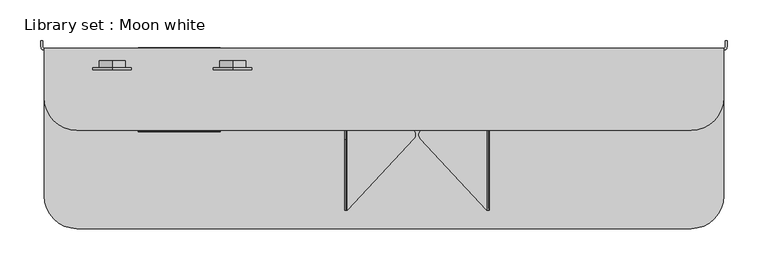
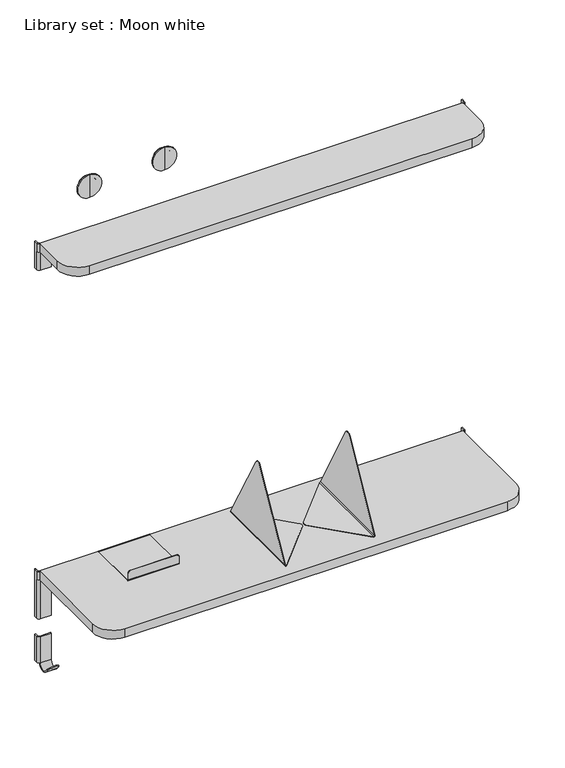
"""IFC4 building model written with IfcOpenShell, lengths in millimetres: proxy geometry, Library set : Moon white."""

from ifc_helpers import new_model, si_unit, point, frame, frame_2d, origin, place, context, project, spatial, polyline, circle_curve, trimmed, segment, composite_curve, outline, extrude, source, transform, mapped, element, save
from ifc_brep_helpers import plane_surface, cylinder_surface, revolved_surface, advanced_brep


def library_set_moon_white_a84b912c(model_context):
    return source(origin(), model_context, "Body", "SolidModel", [
        extrude(outline(composite_curve([segment(polyline([(-415.0, -65.0000014), (-415.0, -5.0000014), (415.0, -5.0000014), (415.0, -65.0000014)]), True, "CONTINUOUS"), segment(trimmed(circle_curve(frame_2d((375.0, -65.0000014)), 40.0), [point((415.0, -65.0000014))], [point((375.0, -105.0000014))], False, "CARTESIAN"), True, "CONTINUOUS"), segment(polyline([(375.0, -105.0000014), (-375.0, -105.0000014)]), True, "CONTINUOUS"), segment(trimmed(circle_curve(frame_2d((-375.0, -65.0000014)), 40.0), [point((-375.0, -105.0000014))], [point((-415.0, -65.0000014))], False, "CARTESIAN"), True, "CONTINUOUS")], self_intersect=False)), frame((0.0, 0.0, 1440.0), z_axis=(0.0, 0.0, 1.0), x_axis=(1.0, 0.0, 0.0)), (0.0, 0.0, 1.0), 18.0),
        extrude(outline(composite_curve([segment(polyline([(-415.0, -185.0000014), (-415.0, -5.0000014), (415.0, -5.0000014), (415.0, -185.0000014)]), True, "CONTINUOUS"), segment(trimmed(circle_curve(frame_2d((375.0, -185.0000014)), 40.0), [point((415.0, -185.0000014))], [point((375.0, -225.0000014))], False, "CARTESIAN"), True, "CONTINUOUS"), segment(polyline([(375.0, -225.0000014), (-375.0, -225.0000014)]), True, "CONTINUOUS"), segment(trimmed(circle_curve(frame_2d((-375.0, -185.0000014)), 40.0), [point((-375.0, -225.0000014))], [point((-415.0, -185.0000014))], False, "CARTESIAN"), True, "CONTINUOUS")], self_intersect=False)), frame((0.0, 0.0, 761.0), z_axis=(0.0, 0.0, 1.0), x_axis=(1.0, 0.0, 0.0)), (0.0, 0.0, 1.0), 18.0),
        extrude(outline(composite_curve([segment(polyline([(-49.0000014, 1408.0), (-49.0000014, 1440.0), (-5.0000014, 1440.0), (-5.0000014, 1403.0), (-44.0000014, 1403.0)]), True, "CONTINUOUS"), segment(trimmed(circle_curve(frame_2d((-44.0000014, 1408.0)), 5.0), [point((-44.0000014, 1403.0))], [point((-49.0000014, 1408.0))], False, "CARTESIAN"), True, "CONTINUOUS")], self_intersect=False)), frame((391.0, 0.0, 0.0), z_axis=(1.0, 0.0, 0.0), x_axis=(0.0, 1.0, 0.0)), (0.0, 0.0, 1.0), 2.0),
        advanced_brep(
        [(44.2382249, -115.311013, 780.0), (125.641753, -202.686997, 780.0), (125.641753, -18.391812, 780.0), (44.2382249, -105.7677961, 780.0), (44.2382249, -115.311013, 779.0), (44.2382249, -105.7677961, 779.0), (125.641753, -18.391812, 779.0), (125.641753, -202.686997, 779.0), (127.641753, -202.686997, 782.0), (128.641753, -202.686997, 782.0), (128.641753, -18.391812, 782.0), (127.641753, -18.391812, 782.0), (127.641753, -116.6617425, 937.1936673), (127.641753, -104.4170666, 937.1936673), (128.641753, -116.6617425, 937.1936673), (128.641753, -104.4170666, 937.1936673)],
        [
            (0, 1),
            (1, 2),
            (2, 3),
            (3, 0, circle_curve(frame((49.3599192, -110.5394045, 780.0), z_axis=(0.0, 0.0, 1.0), x_axis=(-1.0, 0.0, 0.0)), 7.0)),
            (4, 5, circle_curve(frame((49.3599192, -110.5394045, 779.0), z_axis=(0.0, 0.0, -1.0), x_axis=(-1.0, 0.0, 0.0)), 7.0)),
            (5, 6),
            (6, 7),
            (7, 4),
            (0, 4),
            (7, 1),
            (3, 5),
            (2, 6),
            (8, 1, circle_curve(frame((125.641753, -202.686997, 782.0), z_axis=(0.0, 1.0, 0.0), x_axis=(-1.0, 0.0, 0.0)), 2.0)),
            (7, 9, circle_curve(frame((125.641753, -202.686997, 782.0), z_axis=(0.0, -1.0, 0.0), x_axis=(-1.0, 0.0, 0.0)), 3.0)),
            (9, 8),
            (10, 6, circle_curve(frame((125.641753, -18.391812, 782.0), z_axis=(0.0, 1.0, 0.0), x_axis=(-1.0, 0.0, 0.0)), 3.0)),
            (2, 11, circle_curve(frame((125.641753, -18.391812, 782.0), z_axis=(0.0, -1.0, 0.0), x_axis=(-1.0, 0.0, 0.0)), 2.0)),
            (11, 10),
            (10, 9),
            (8, 11),
            (12, 13, circle_curve(frame((127.641753, -110.5394045, 933.8), z_axis=(-1.0, 0.0, 0.0), x_axis=(0.0, 1.0, 0.0)), 7.0)),
            (13, 11),
            (8, 12),
            (14, 9),
            (10, 15),
            (15, 14, circle_curve(frame((128.641753, -110.5394045, 933.8), z_axis=(1.0, 0.0, 0.0), x_axis=(0.0, 1.0, 0.0)), 7.0)),
            (14, 12),
            (13, 15),
        ],
        [
            plane_surface(frame((120.8183962, -197.5097577, 780.0), z_axis=(0.0, 0.0, 1.0), x_axis=(0.6816583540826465, -0.7316706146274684, 0.0))),
            plane_surface(frame((120.8183962, -197.5097577, 779.0), z_axis=(0.0, 0.0, -1.0), x_axis=(-0.6816583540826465, 0.7316706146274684, 0.0))),
            plane_surface(frame((44.2382249, -115.311013, 780.0), z_axis=(-0.7316706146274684, -0.6816583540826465, 0.0), x_axis=(0.0, 0.0, -1.0))),
            cylinder_surface(frame((49.3599192, -110.5394045, 779.0), z_axis=(0.0, 0.0, 1.0), x_axis=(-1.0, 0.0, 0.0)), 7.0),
            plane_surface(frame((125.641753, -18.391812, 780.0), z_axis=(-0.7316706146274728, 0.6816583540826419, 0.0), x_axis=(0.0, 0.0, -1.0))),
            plane_surface(frame((127.641753, -202.686997, 782.0), z_axis=(0.0, -1.0, 0.0), x_axis=(-1.0, 0.0, 0.0))),
            plane_surface(frame((127.641753, -18.391812, 782.0), z_axis=(0.0, 1.0, 0.0), x_axis=(1.0, 0.0, 0.0))),
            cylinder_surface(frame((125.641753, -18.391812, 782.0), z_axis=(0.0, -1.0, 0.0), x_axis=(-1.0, 0.0, 0.0)), 3.0),
            revolved_surface(polyline([(123.641753, -18.391812, 782.0), (123.641753, -202.68699700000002, 782.0)]), (125.641753, -18.391812, 782.0), (0.0, 1.0, 0.0)),
            plane_surface(frame((127.641753, -103.5394045, 933.8), z_axis=(-1.0, 0.0, 0.0), x_axis=(0.0, 0.0, -1.0))),
            plane_surface(frame((128.641753, -103.5394045, 933.8), z_axis=(1.0, 0.0, 0.0), x_axis=(0.0, 0.0, 1.0))),
            plane_surface(frame((127.641753, -202.686997, 782.0), z_axis=(0.0, -0.8746197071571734, 0.4848096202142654), x_axis=(1.0, 0.0, 0.0))),
            plane_surface(frame((127.641753, -104.4170666, 937.1936673), z_axis=(0.0, 0.8746197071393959, 0.4848096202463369), x_axis=(1.0, 0.0, 0.0))),
            cylinder_surface(frame((128.641753, -110.5394045, 933.8), z_axis=(-1.0, 0.0, 0.0), x_axis=(0.0, 1.0, 0.0)), 7.0),
        ],
        [
            (0, [[1, 2, 3, 4]]),
            (1, [[5, 6, 7, 8]]),
            (2, [[-1, 9, -8, 10]]),
            (3, [[-4, 11, -5, -9]]),
            (4, [[-3, 12, -6, -11]]),
            (5, [[13, -10, 14, 15]]),
            (6, [[16, -12, 17, 18]]),
            (7, [[-14, -7, -16, 19]]),
            (8, [[-13, 20, -17, -2]]),
            (9, [[21, 22, -20, 23]]),
            (10, [[24, -19, 25, 26]]),
            (11, [[-23, -15, -24, 27]]),
            (12, [[-22, 28, -25, -18]]),
            (13, [[-21, -27, -26, -28]]),
        ],
    ),
        advanced_brep(
        [(-415.0, -7.0000014, 761.0), (-393.0, -7.0000014, 761.0), (-393.0, -5.0000014, 761.0), (-415.0, -5.0000014, 761.0), (-419.0, -3.0000014, 681.0), (-419.0, 4.0, 681.0), (-417.0, 4.0, 681.0), (-417.0, -3.0000014, 681.0), (-415.0, -5.0000014, 681.0), (-393.0, -5.0000014, 681.0), (-393.0, -7.0000014, 681.0), (-415.0, -7.0000014, 681.0), (-419.0, -3.0000014, 761.0), (-417.0, -3.0000014, 761.0), (-417.0, 4.0, 779.0), (-417.0, -3.0000014, 779.0), (-419.0, 4.0, 779.0), (-419.0, -3.0000014, 779.0), (-415.0, -7.0000014, 779.0), (-415.0, -5.0000014, 779.0)],
        [
            (0, 1),
            (1, 2),
            (2, 3),
            (3, 0),
            (4, 5),
            (5, 6),
            (6, 7),
            (7, 8, circle_curve(frame((-415.0, -3.0000014, 681.0), z_axis=(0.0, 0.0, 1.0), x_axis=(1.0, 0.0, 0.0)), 2.0)),
            (8, 9),
            (9, 10),
            (10, 11),
            (11, 4, circle_curve(frame((-415.0, -3.0000014, 681.0), z_axis=(0.0, 0.0, -1.0), x_axis=(1.0, 0.0, 0.0)), 4.0)),
            (11, 0),
            (0, 12, circle_curve(frame((-415.0, -3.0000014, 761.0), z_axis=(0.0, 0.0, -1.0), x_axis=(1.0, 0.0, 0.0)), 4.0)),
            (12, 4),
            (10, 1),
            (9, 2),
            (8, 3),
            (7, 13),
            (13, 3, circle_curve(frame((-415.0, -3.0000014, 761.0), z_axis=(0.0, 0.0, 1.0), x_axis=(1.0, 0.0, 0.0)), 2.0)),
            (6, 14),
            (14, 15),
            (15, 13),
            (5, 16),
            (16, 14),
            (12, 17),
            (17, 16),
            (17, 18, circle_curve(frame((-415.0, -3.0000014, 779.0), z_axis=(0.0, 0.0, 1.0), x_axis=(1.0, 0.0, 0.0)), 4.0)),
            (18, 19),
            (19, 15, circle_curve(frame((-415.0, -3.0000014, 779.0), z_axis=(0.0, 0.0, -1.0), x_axis=(1.0, 0.0, 0.0)), 2.0)),
            (0, 18),
            (19, 3),
        ],
        [
            plane_surface(frame((-411.0, -3.0000014, 761.0), z_axis=(0.0, 0.0, 1.0), x_axis=(0.0, 1.0, 0.0))),
            plane_surface(frame((-411.0, -3.0000014, 681.0), z_axis=(0.0, 0.0, -1.0), x_axis=(0.0, -1.0, 0.0))),
            cylinder_surface(frame((-415.0, -3.0000014, 681.0), z_axis=(0.0, 0.0, 1.0), x_axis=(1.0, 0.0, 0.0)), 4.0),
            plane_surface(frame((-415.0, -7.0000014, 761.0), z_axis=(0.0, -1.0, 0.0), x_axis=(0.0, 0.0, -1.0))),
            plane_surface(frame((-393.0, -7.0000014, 761.0), z_axis=(1.0, 0.0, 0.0), x_axis=(0.0, 0.0, -1.0))),
            plane_surface(frame((-393.0, -5.0000014, 761.0), z_axis=(0.0, 1.0, 0.0), x_axis=(0.0, 0.0, -1.0))),
            revolved_surface(polyline([(-413.0, -3.0000014, 681.0), (-413.0, -3.0000014, 761.0)]), (-415.0, -3.0000014, 681.0), (0.0, 0.0, -1.0)),
            plane_surface(frame((-417.0, -3.0000014, 761.0), z_axis=(1.0, 0.0, 0.0), x_axis=(0.0, 0.0, -1.0))),
            plane_surface(frame((-417.0, 4.0, 761.0), z_axis=(0.0, 1.0, 0.0), x_axis=(0.0, 0.0, -1.0))),
            plane_surface(frame((-419.0, 4.0, 761.0), z_axis=(-1.0, 0.0, 0.0), x_axis=(0.0, 0.0, -1.0))),
            plane_surface(frame((-411.0, -3.0000014, 779.0), z_axis=(0.0, 0.0, 1.0), x_axis=(0.0, 1.0, 0.0))),
            cylinder_surface(frame((-415.0, -3.0000014, 761.0), z_axis=(0.0, 0.0, 1.0), x_axis=(1.0, 0.0, 0.0)), 4.0),
            revolved_surface(polyline([(-413.0, -3.0000014, 761.0), (-413.0, -3.0000014, 779.0)]), (-415.0, -3.0000014, 761.0), (0.0, 0.0, -1.0)),
            plane_surface(frame((-415.0, -7.0000014, 779.0), z_axis=(1.0, 0.0, 0.0), x_axis=(0.0, 0.0, -1.0))),
        ],
        [
            (0, [[1, 2, 3, 4]]),
            (1, [[5, 6, 7, 8, 9, 10, 11, 12]]),
            (2, [[-12, 13, 14, 15]]),
            (3, [[-1, -13, -11, 16]]),
            (4, [[-2, -16, -10, 17]]),
            (5, [[-3, -17, -9, 18]]),
            (6, [[-8, 19, 20, -18]]),
            (7, [[-7, 21, 22, 23, -19]]),
            (8, [[-21, -6, 24, 25]]),
            (9, [[-24, -5, -15, 26, 27]]),
            (10, [[28, 29, 30, -22, -25, -27]]),
            (11, [[-28, -26, -14, 31]]),
            (12, [[-30, 32, -20, -23]]),
            (13, [[-29, -31, -4, -32]]),
        ],
    ),
        advanced_brep(
        [(415.0, -5.0000014, 761.0), (393.0, -5.0000014, 761.0), (393.0, -7.0000014, 761.0), (415.0, -7.0000014, 761.0), (419.0, -3.0000014, 681.0), (415.0, -7.0000014, 681.0), (393.0, -7.0000014, 681.0), (393.0, -5.0000014, 681.0), (415.0, -5.0000014, 681.0), (417.0, -3.0000014, 681.0), (417.0, 4.0, 681.0), (419.0, 4.0, 681.0), (419.0, 4.0, 779.0), (419.0, -3.0000014, 779.0), (419.0, -3.0000014, 761.0), (417.0, 4.0, 779.0), (417.0, -3.0000014, 761.0), (417.0, -3.0000014, 779.0), (415.0, -5.0000014, 779.0), (415.0, -7.0000014, 779.0)],
        [
            (0, 1),
            (1, 2),
            (2, 3),
            (3, 0),
            (4, 5, circle_curve(frame((415.0, -3.0000014, 681.0), z_axis=(0.0, 0.0, -1.0), x_axis=(1.0, 0.0, 0.0)), 4.0)),
            (5, 6),
            (6, 7),
            (7, 8),
            (8, 9, circle_curve(frame((415.0, -3.0000014, 681.0), z_axis=(0.0, 0.0, 1.0), x_axis=(1.0, 0.0, 0.0)), 2.0)),
            (9, 10),
            (10, 11),
            (11, 4),
            (11, 12),
            (12, 13),
            (13, 14),
            (14, 4),
            (10, 15),
            (15, 12),
            (9, 16),
            (16, 17),
            (17, 15),
            (8, 0),
            (0, 16, circle_curve(frame((415.0, -3.0000014, 761.0), z_axis=(0.0, 0.0, 1.0), x_axis=(1.0, 0.0, 0.0)), 2.0)),
            (7, 1),
            (6, 2),
            (5, 3),
            (14, 3, circle_curve(frame((415.0, -3.0000014, 761.0), z_axis=(0.0, 0.0, -1.0), x_axis=(1.0, 0.0, 0.0)), 4.0)),
            (17, 18, circle_curve(frame((415.0, -3.0000014, 779.0), z_axis=(0.0, 0.0, -1.0), x_axis=(1.0, 0.0, 0.0)), 2.0)),
            (18, 19),
            (19, 13, circle_curve(frame((415.0, -3.0000014, 779.0), z_axis=(0.0, 0.0, 1.0), x_axis=(1.0, 0.0, 0.0)), 4.0)),
            (0, 18),
            (19, 3),
        ],
        [
            plane_surface(frame((-411.0, -3.0000014, 761.0), z_axis=(0.0, 0.0, 1.0), x_axis=(0.0, 1.0, 0.0))),
            plane_surface(frame((-411.0, -3.0000014, 681.0), z_axis=(0.0, 0.0, -1.0), x_axis=(0.0, -1.0, 0.0))),
            plane_surface(frame((419.0, -3.0000014, 761.0), z_axis=(1.0, 0.0, 0.0), x_axis=(0.0, 0.0, -1.0))),
            plane_surface(frame((419.0, 4.0, 761.0), z_axis=(0.0, 1.0, 0.0), x_axis=(0.0, 0.0, -1.0))),
            plane_surface(frame((417.0, 4.0, 761.0), z_axis=(-1.0, 0.0, 0.0), x_axis=(0.0, 0.0, -1.0))),
            revolved_surface(polyline([(417.0, -3.0000014, 681.0), (417.0, -3.0000014, 761.0)]), (415.0, -3.0000014, 0.0), (0.0, 0.0, -1.0)),
            plane_surface(frame((415.0, -5.0000014, 761.0), z_axis=(0.0, 1.0, 0.0), x_axis=(0.0, 0.0, -1.0))),
            plane_surface(frame((393.0, -5.0000014, 761.0), z_axis=(-1.0, 0.0, 0.0), x_axis=(0.0, 0.0, -1.0))),
            plane_surface(frame((393.0, -7.0000014, 761.0), z_axis=(0.0, -1.0, 0.0), x_axis=(0.0, 0.0, -1.0))),
            cylinder_surface(frame((415.0, -3.0000014, 0.0), z_axis=(0.0, 0.0, 1.0), x_axis=(1.0, 0.0, 0.0)), 4.0),
            plane_surface(frame((-411.0, -3.0000014, 779.0), z_axis=(0.0, 0.0, 1.0), x_axis=(0.0, 1.0, 0.0))),
            revolved_surface(polyline([(417.0, -3.0000014, 761.0), (417.0, -3.0000014, 779.0)]), (415.0, -3.0000014, 45.0), (0.0, 0.0, -1.0)),
            cylinder_surface(frame((415.0, -3.0000014, 45.0), z_axis=(0.0, 0.0, 1.0), x_axis=(1.0, 0.0, 0.0)), 4.0),
            plane_surface(frame((415.0, -5.0000014, 779.0), z_axis=(-1.0, 0.0, 0.0), x_axis=(0.0, 0.0, -1.0))),
        ],
        [
            (0, [[1, 2, 3, 4]]),
            (1, [[5, 6, 7, 8, 9, 10, 11, 12]]),
            (2, [[-12, 13, 14, 15, 16]]),
            (3, [[-13, -11, 17, 18]]),
            (4, [[-17, -10, 19, 20, 21]]),
            (5, [[-9, 22, 23, -19]]),
            (6, [[-1, -22, -8, 24]]),
            (7, [[-2, -24, -7, 25]]),
            (8, [[-3, -25, -6, 26]]),
            (9, [[-5, -16, 27, -26]]),
            (10, [[-14, -18, -21, 28, 29, 30]]),
            (11, [[-28, -20, -23, 31]]),
            (12, [[-30, 32, -27, -15]]),
            (13, [[-29, -31, -4, -32]]),
        ],
    ),
        advanced_brep(
        [(-415.0, -7.0000014, 1440.0), (-393.0, -7.0000014, 1440.0), (-393.0, -5.0000014, 1440.0), (-415.0, -5.0000014, 1440.0), (-419.0, -3.0000014, 1403.0), (-419.0, 4.0, 1403.0), (-417.0, 4.0, 1403.0), (-417.0, -3.0000014, 1403.0), (-415.0, -5.0000014, 1403.0), (-393.0, -5.0000014, 1403.0), (-393.0, -7.0000014, 1403.0), (-415.0, -7.0000014, 1403.0), (-419.0, -3.0000014, 1440.0), (-417.0, -3.0000014, 1440.0), (-417.0, 4.0, 1458.0), (-417.0, -3.0000014, 1458.0), (-419.0, 4.0, 1458.0), (-419.0, -3.0000014, 1458.0), (-415.0, -7.0000014, 1458.0), (-415.0, -5.0000014, 1458.0)],
        [
            (0, 1),
            (1, 2),
            (2, 3),
            (3, 0),
            (4, 5),
            (5, 6),
            (6, 7),
            (7, 8, circle_curve(frame((-415.0, -3.0000014, 1403.0), z_axis=(0.0, 0.0, 1.0), x_axis=(1.0, 0.0, 0.0)), 2.0)),
            (8, 9),
            (9, 10),
            (10, 11),
            (11, 4, circle_curve(frame((-415.0, -3.0000014, 1403.0), z_axis=(0.0, 0.0, -1.0), x_axis=(1.0, 0.0, 0.0)), 4.0)),
            (11, 0),
            (0, 12, circle_curve(frame((-415.0, -3.0000014, 1440.0), z_axis=(0.0, 0.0, -1.0), x_axis=(1.0, 0.0, 0.0)), 4.0)),
            (12, 4),
            (10, 1),
            (9, 2),
            (8, 3),
            (7, 13),
            (13, 3, circle_curve(frame((-415.0, -3.0000014, 1440.0), z_axis=(0.0, 0.0, 1.0), x_axis=(1.0, 0.0, 0.0)), 2.0)),
            (6, 14),
            (14, 15),
            (15, 13),
            (5, 16),
            (16, 14),
            (12, 17),
            (17, 16),
            (17, 18, circle_curve(frame((-415.0, -3.0000014, 1458.0), z_axis=(0.0, 0.0, 1.0), x_axis=(1.0, 0.0, 0.0)), 4.0)),
            (18, 19),
            (19, 15, circle_curve(frame((-415.0, -3.0000014, 1458.0), z_axis=(0.0, 0.0, -1.0), x_axis=(1.0, 0.0, 0.0)), 2.0)),
            (0, 18),
            (19, 3),
        ],
        [
            plane_surface(frame((-411.0, -3.0000014, 1440.0), z_axis=(0.0, 0.0, 1.0), x_axis=(0.0, 1.0, 0.0))),
            plane_surface(frame((-411.0, -3.0000014, 1403.0), z_axis=(0.0, 0.0, -1.0), x_axis=(0.0, -1.0, 0.0))),
            cylinder_surface(frame((-415.0, -3.0000014, 1403.0), z_axis=(0.0, 0.0, 1.0), x_axis=(1.0, 0.0, 0.0)), 4.0),
            plane_surface(frame((-415.0, -7.0000014, 1440.0), z_axis=(0.0, -1.0, 0.0), x_axis=(0.0, 0.0, -1.0))),
            plane_surface(frame((-393.0, -7.0000014, 1440.0), z_axis=(1.0, 0.0, 0.0), x_axis=(0.0, 0.0, -1.0))),
            plane_surface(frame((-393.0, -5.0000014, 1440.0), z_axis=(0.0, 1.0, 0.0), x_axis=(0.0, 0.0, -1.0))),
            revolved_surface(polyline([(-413.0, -3.0000014, 1403.0), (-413.0, -3.0000014, 1440.0)]), (-415.0, -3.0000014, 1403.0), (0.0, 0.0, -1.0)),
            plane_surface(frame((-417.0, -3.0000014, 1440.0), z_axis=(1.0, 0.0, 0.0), x_axis=(0.0, 0.0, -1.0))),
            plane_surface(frame((-417.0, 4.0, 1440.0), z_axis=(0.0, 1.0, 0.0), x_axis=(0.0, 0.0, -1.0))),
            plane_surface(frame((-419.0, 4.0, 1440.0), z_axis=(-1.0, 0.0, 0.0), x_axis=(0.0, 0.0, -1.0))),
            plane_surface(frame((-411.0, -3.0000014, 1458.0), z_axis=(0.0, 0.0, 1.0), x_axis=(0.0, 1.0, 0.0))),
            cylinder_surface(frame((-415.0, -3.0000014, 1440.0), z_axis=(0.0, 0.0, 1.0), x_axis=(1.0, 0.0, 0.0)), 4.0),
            revolved_surface(polyline([(-413.0, -3.0000014, 1440.0), (-413.0, -3.0000014, 1458.0)]), (-415.0, -3.0000014, 1440.0), (0.0, 0.0, -1.0)),
            plane_surface(frame((-415.0, -7.0000014, 1458.0), z_axis=(1.0, 0.0, 0.0), x_axis=(0.0, 0.0, -1.0))),
        ],
        [
            (0, [[1, 2, 3, 4]]),
            (1, [[5, 6, 7, 8, 9, 10, 11, 12]]),
            (2, [[-12, 13, 14, 15]]),
            (3, [[-1, -13, -11, 16]]),
            (4, [[-2, -16, -10, 17]]),
            (5, [[-3, -17, -9, 18]]),
            (6, [[-8, 19, 20, -18]]),
            (7, [[-7, 21, 22, 23, -19]]),
            (8, [[-21, -6, 24, 25]]),
            (9, [[-24, -5, -15, 26, 27]]),
            (10, [[28, 29, 30, -22, -25, -27]]),
            (11, [[-28, -26, -14, 31]]),
            (12, [[-30, 32, -20, -23]]),
            (13, [[-29, -31, -4, -32]]),
        ],
    ),
        advanced_brep(
        [(415.0, -5.0000014, 1440.0), (392.6469872, -5.0000014, 1440.0), (392.6469872, -7.0000014, 1440.0), (415.0, -7.0000014, 1440.0), (419.0, -3.0000014, 1403.0), (415.0, -7.0000014, 1403.0), (392.6469872, -7.0000014, 1403.0), (392.6469872, -5.0000014, 1403.0), (415.0, -5.0000014, 1403.0), (417.0, -3.0000014, 1403.0), (417.0, 4.0, 1403.0), (419.0, 4.0, 1403.0), (419.0, 4.0, 1458.0), (419.0, -3.0000014, 1458.0), (419.0, -3.0000014, 1440.0), (417.0, 4.0, 1458.0), (417.0, -3.0000014, 1440.0), (417.0, -3.0000014, 1458.0), (415.0, -5.0000014, 1458.0), (415.0, -7.0000014, 1458.0)],
        [
            (0, 1),
            (1, 2),
            (2, 3),
            (3, 0),
            (4, 5, circle_curve(frame((415.0, -3.0000014, 1403.0), z_axis=(0.0, 0.0, -1.0), x_axis=(1.0, 0.0, 0.0)), 4.0)),
            (5, 6),
            (6, 7),
            (7, 8),
            (8, 9, circle_curve(frame((415.0, -3.0000014, 1403.0), z_axis=(0.0, 0.0, 1.0), x_axis=(1.0, 0.0, 0.0)), 2.0)),
            (9, 10),
            (10, 11),
            (11, 4),
            (11, 12),
            (12, 13),
            (13, 14),
            (14, 4),
            (10, 15),
            (15, 12),
            (9, 16),
            (16, 17),
            (17, 15),
            (8, 0),
            (0, 16, circle_curve(frame((415.0, -3.0000014, 1440.0), z_axis=(0.0, 0.0, 1.0), x_axis=(1.0, 0.0, 0.0)), 2.0)),
            (7, 1),
            (6, 2),
            (5, 3),
            (14, 3, circle_curve(frame((415.0, -3.0000014, 1440.0), z_axis=(0.0, 0.0, -1.0), x_axis=(1.0, 0.0, 0.0)), 4.0)),
            (17, 18, circle_curve(frame((415.0, -3.0000014, 1458.0), z_axis=(0.0, 0.0, -1.0), x_axis=(1.0, 0.0, 0.0)), 2.0)),
            (18, 19),
            (19, 13, circle_curve(frame((415.0, -3.0000014, 1458.0), z_axis=(0.0, 0.0, 1.0), x_axis=(1.0, 0.0, 0.0)), 4.0)),
            (0, 18),
            (19, 3),
        ],
        [
            plane_surface(frame((-411.0, -3.0000014, 1440.0), z_axis=(0.0, 0.0, 1.0), x_axis=(0.0, 1.0, 0.0))),
            plane_surface(frame((-411.0, -3.0000014, 1403.0), z_axis=(0.0, 0.0, -1.0), x_axis=(0.0, -1.0, 0.0))),
            plane_surface(frame((419.0, -3.0000014, 1440.0), z_axis=(1.0, 0.0, 0.0), x_axis=(0.0, 0.0, -1.0))),
            plane_surface(frame((419.0, 4.0, 1440.0), z_axis=(0.0, 1.0, 0.0), x_axis=(0.0, 0.0, -1.0))),
            plane_surface(frame((417.0, 4.0, 1440.0), z_axis=(-1.0, 0.0, 0.0), x_axis=(0.0, 0.0, -1.0))),
            revolved_surface(polyline([(417.0, -3.0000014, 1403.0), (417.0, -3.0000014, 1440.0)]), (415.0, -3.0000014, 340.0), (0.0, 0.0, -1.0)),
            plane_surface(frame((415.0, -5.0000014, 1440.0), z_axis=(0.0, 1.0, 0.0), x_axis=(0.0, 0.0, -1.0))),
            plane_surface(frame((392.6469872, -5.0000014, 1440.0), z_axis=(-1.0, 0.0, 0.0), x_axis=(0.0, 0.0, -1.0))),
            plane_surface(frame((392.6469872, -7.0000014, 1440.0), z_axis=(0.0, -1.0, 0.0), x_axis=(0.0, 0.0, -1.0))),
            cylinder_surface(frame((415.0, -3.0000014, 340.0), z_axis=(0.0, 0.0, 1.0), x_axis=(1.0, 0.0, 0.0)), 4.0),
            plane_surface(frame((-411.0, -3.0000014, 1458.0), z_axis=(0.0, 0.0, 1.0), x_axis=(0.0, 1.0, 0.0))),
            revolved_surface(polyline([(417.0, -3.0000014, 1440.0), (417.0, -3.0000014, 1458.0)]), (415.0, -3.0000014, 355.0), (0.0, 0.0, -1.0)),
            cylinder_surface(frame((415.0, -3.0000014, 355.0), z_axis=(0.0, 0.0, 1.0), x_axis=(1.0, 0.0, 0.0)), 4.0),
            plane_surface(frame((415.0, -5.0000014, 1458.0), z_axis=(-1.0, 0.0, 0.0), x_axis=(0.0, 0.0, -1.0))),
        ],
        [
            (0, [[1, 2, 3, 4]]),
            (1, [[5, 6, 7, 8, 9, 10, 11, 12]]),
            (2, [[-12, 13, 14, 15, 16]]),
            (3, [[-13, -11, 17, 18]]),
            (4, [[-17, -10, 19, 20, 21]]),
            (5, [[-9, 22, 23, -19]]),
            (6, [[-1, -22, -8, 24]]),
            (7, [[-2, -24, -7, 25]]),
            (8, [[-3, -25, -6, 26]]),
            (9, [[-5, -16, 27, -26]]),
            (10, [[-14, -18, -21, 28, 29, 30]]),
            (11, [[-28, -20, -23, 31]]),
            (12, [[-30, 32, -27, -15]]),
            (13, [[-29, -31, -4, -32]]),
        ],
    ),
        advanced_brep(
        [(36.4816135, -115.311013, 780.0), (36.4816135, -105.7677961, 780.0), (-44.9219146, -18.391812, 780.0), (-44.9219146, -202.686997, 780.0), (36.4816135, -115.311013, 779.0), (-44.9219146, -202.686997, 779.0), (-44.9219146, -18.391812, 779.0), (36.4816135, -105.7677961, 779.0), (-47.9219146, -202.686997, 782.0), (-46.9219146, -202.686997, 782.0), (-46.9219146, -18.391812, 782.0), (-47.9219146, -18.391812, 782.0), (-46.9219146, -116.6617425, 937.1936673), (-46.9219146, -104.4170666, 937.1936673), (-47.9219146, -116.6617425, 937.1936673), (-47.9219146, -104.4170666, 937.1936673)],
        [
            (0, 1, circle_curve(frame((31.3599192, -110.5394045, 780.0), z_axis=(0.0, 0.0, 1.0), x_axis=(1.0, 0.0, 0.0)), 7.0)),
            (1, 2),
            (2, 3),
            (3, 0),
            (4, 5),
            (5, 6),
            (6, 7),
            (7, 4, circle_curve(frame((31.3599192, -110.5394045, 779.0), z_axis=(0.0, 0.0, -1.0), x_axis=(1.0, 0.0, 0.0)), 7.0)),
            (3, 5),
            (4, 0),
            (7, 1),
            (6, 2),
            (8, 5, circle_curve(frame((-44.9219146, -202.686997, 782.0), z_axis=(0.0, -1.0, 0.0), x_axis=(1.0, 0.0, 0.0)), 3.0)),
            (3, 9, circle_curve(frame((-44.9219146, -202.686997, 782.0), z_axis=(0.0, 1.0, 0.0), x_axis=(1.0, 0.0, 0.0)), 2.0)),
            (9, 8),
            (10, 2, circle_curve(frame((-44.9219146, -18.391812, 782.0), z_axis=(0.0, -1.0, 0.0), x_axis=(1.0, 0.0, 0.0)), 2.0)),
            (6, 11, circle_curve(frame((-44.9219146, -18.391812, 782.0), z_axis=(0.0, 1.0, 0.0), x_axis=(1.0, 0.0, 0.0)), 3.0)),
            (11, 10),
            (8, 11),
            (10, 9),
            (12, 9),
            (10, 13),
            (13, 12, circle_curve(frame((-46.9219146, -110.5394045, 933.8), z_axis=(1.0, 0.0, 0.0), x_axis=(0.0, 1.0, 0.0)), 7.0)),
            (14, 15, circle_curve(frame((-47.9219146, -110.5394045, 933.8), z_axis=(-1.0, 0.0, 0.0), x_axis=(0.0, 1.0, 0.0)), 7.0)),
            (15, 11),
            (8, 14),
            (12, 14),
            (15, 13),
        ],
        [
            plane_surface(frame((38.3599192, -110.5394045, 780.0), z_axis=(0.0, 0.0, 1.0), x_axis=(0.0, 1.0, 0.0))),
            plane_surface(frame((38.3599192, -110.5394045, 779.0), z_axis=(0.0, 0.0, -1.0), x_axis=(0.0, -1.0, 0.0))),
            plane_surface(frame((-44.9219146, -202.686997, 780.0), z_axis=(0.7316706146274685, -0.6816583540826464, 0.0), x_axis=(0.0, 0.0, -1.0))),
            cylinder_surface(frame((31.3599192, -110.5394045, 779.0), z_axis=(0.0, 0.0, 1.0), x_axis=(1.0, 0.0, 0.0)), 7.0),
            plane_surface(frame((36.4816135, -105.7677961, 780.0), z_axis=(0.7316706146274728, 0.6816583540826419, 0.0), x_axis=(0.0, 0.0, -1.0))),
            plane_surface(frame((-41.9219146, -202.686997, 782.0), z_axis=(0.0, -1.0, 0.0), x_axis=(0.0, 0.0, 1.0))),
            plane_surface(frame((-41.9219146, -18.391812, 782.0), z_axis=(0.0, 1.0, 0.0), x_axis=(0.0, 0.0, -1.0))),
            cylinder_surface(frame((-44.9219146, -18.391812, 782.0), z_axis=(0.0, -1.0, 0.0), x_axis=(1.0, 0.0, 0.0)), 3.0),
            revolved_surface(polyline([(-42.9219146, -18.391812, 782.0), (-42.9219146, -202.68699700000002, 782.0)]), (-44.9219146, -18.391812, 782.0), (0.0, 1.0, 0.0)),
            plane_surface(frame((-46.9219146, -200.4270861, 786.0769872), z_axis=(1.0, 0.0, 0.0), x_axis=(0.0, -0.4848096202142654, -0.8746197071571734))),
            plane_surface(frame((-47.9219146, -200.4270861, 786.0769872), z_axis=(-1.0, 0.0, 0.0), x_axis=(0.0, 0.4848096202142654, 0.8746197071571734))),
            plane_surface(frame((-46.9219146, -116.6617425, 937.1936673), z_axis=(0.0, -0.8746197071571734, 0.4848096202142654), x_axis=(-1.0, 0.0, 0.0))),
            plane_surface(frame((-46.9219146, -18.391812, 782.0), z_axis=(0.0, 0.874619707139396, 0.48480962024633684), x_axis=(-1.0, 0.0, 0.0))),
            cylinder_surface(frame((-47.9219146, -110.5394045, 933.8), z_axis=(1.0, 0.0, 0.0), x_axis=(0.0, 1.0, 0.0)), 7.0),
        ],
        [
            (0, [[1, 2, 3, 4]]),
            (1, [[5, 6, 7, 8]]),
            (2, [[-4, 9, -5, 10]]),
            (3, [[-1, -10, -8, 11]]),
            (4, [[-2, -11, -7, 12]]),
            (5, [[13, -9, 14, 15]]),
            (6, [[16, -12, 17, 18]]),
            (7, [[-13, 19, -17, -6]]),
            (8, [[-14, -3, -16, 20]]),
            (9, [[21, -20, 22, 23]]),
            (10, [[24, 25, -19, 26]]),
            (11, [[-21, 27, -26, -15]]),
            (12, [[-22, -18, -25, 28]]),
            (13, [[-23, -28, -24, -27]]),
        ],
    ),
        advanced_brep(
        [(-200.0, -107.0, 782.0), (-200.0, -104.0, 779.0), (-200.0, -6.5000014, 779.0), (-200.0, -5.0000014, 777.5), (-200.0, -5.0000014, 762.0), (-200.0, -4.0000014, 762.0), (-200.0, -4.0000014, 777.0), (-200.0, -7.0000014, 780.0), (-200.0, -104.5, 780.0), (-200.0, -106.0, 781.5), (-200.0, -106.0, 795.0), (-200.0, -107.0, 795.0), (-300.0, -106.0, 781.5), (-300.0, -104.5, 780.0), (-300.0, -7.0000014, 780.0), (-300.0, -4.0000014, 777.0), (-300.0, -4.0000014, 762.0), (-300.0, -5.0000014, 762.0), (-300.0, -5.0000014, 777.5), (-300.0, -6.5000014, 779.0), (-300.0, -104.0, 779.0), (-300.0, -107.0, 782.0), (-300.0, -107.0, 795.0), (-300.0, -106.0, 795.0), (-205.0, -107.0, 800.0), (-295.0, -107.0, 800.0), (-295.0, -106.0, 800.0), (-205.0, -106.0, 800.0)],
        [
            (0, 1, circle_curve(frame((-200.0, -104.0, 782.0), z_axis=(1.0, 0.0, 0.0), x_axis=(0.0, 1.0, 0.0)), 3.0)),
            (1, 2),
            (2, 3, circle_curve(frame((-200.0, -6.5000014, 777.5), z_axis=(-1.0, 0.0, 0.0), x_axis=(0.0, 1.0, 0.0)), 1.5)),
            (3, 4),
            (4, 5),
            (5, 6),
            (6, 7, circle_curve(frame((-200.0, -7.0000014, 777.0), z_axis=(1.0, 0.0, 0.0), x_axis=(0.0, 1.0, 0.0)), 3.0)),
            (7, 8),
            (8, 9, circle_curve(frame((-200.0, -104.5, 781.5), z_axis=(-1.0, 0.0, 0.0), x_axis=(0.0, 1.0, 0.0)), 1.5)),
            (9, 10),
            (10, 11),
            (11, 0),
            (12, 13, circle_curve(frame((-300.0, -104.5, 781.5), z_axis=(1.0, 0.0, 0.0), x_axis=(0.0, 1.0, 0.0)), 1.5)),
            (13, 14),
            (14, 15, circle_curve(frame((-300.0, -7.0000014, 777.0), z_axis=(-1.0, 0.0, 0.0), x_axis=(0.0, 1.0, 0.0)), 3.0)),
            (15, 16),
            (16, 17),
            (17, 18),
            (18, 19, circle_curve(frame((-300.0, -6.5000014, 777.5), z_axis=(1.0, 0.0, 0.0), x_axis=(0.0, 1.0, 0.0)), 1.5)),
            (19, 20),
            (20, 21, circle_curve(frame((-300.0, -104.0, 782.0), z_axis=(-1.0, 0.0, 0.0), x_axis=(0.0, 1.0, 0.0)), 3.0)),
            (21, 22),
            (22, 23),
            (23, 12),
            (21, 0),
            (11, 24, circle_curve(frame((-205.0, -107.0, 795.0), z_axis=(0.0, -1.0, 0.0), x_axis=(1.0, 0.0, 0.0)), 5.0)),
            (24, 25),
            (25, 22, circle_curve(frame((-295.0, -107.0, 795.0), z_axis=(0.0, -1.0, 0.0), x_axis=(1.0, 0.0, 0.0)), 5.0)),
            (20, 1),
            (19, 2),
            (18, 3),
            (17, 4),
            (16, 5),
            (15, 6),
            (14, 7),
            (13, 8),
            (12, 9),
            (23, 26, circle_curve(frame((-295.0, -106.0, 795.0), z_axis=(0.0, 1.0, 0.0), x_axis=(1.0, 0.0, 0.0)), 5.0)),
            (26, 27),
            (27, 10, circle_curve(frame((-205.0, -106.0, 795.0), z_axis=(0.0, 1.0, 0.0), x_axis=(1.0, 0.0, 0.0)), 5.0)),
            (24, 27),
            (26, 25),
        ],
        [
            plane_surface(frame((-200.0, -107.0, 794.0), z_axis=(1.0, 0.0, 0.0), x_axis=(0.0, 0.0, -1.0))),
            plane_surface(frame((-300.0, -107.0, 794.0), z_axis=(-1.0, 0.0, 0.0), x_axis=(0.0, 0.0, 1.0))),
            plane_surface(frame((-200.0, -107.0, 800.0), z_axis=(0.0, -1.0, 0.0), x_axis=(-1.0, 0.0, 0.0))),
            cylinder_surface(frame((-300.0, -104.0, 782.0), z_axis=(1.0, 0.0, 0.0), x_axis=(0.0, 1.0, 0.0)), 3.0),
            plane_surface(frame((-200.0, -104.0, 779.0), z_axis=(0.0, 0.0, -1.0), x_axis=(-1.0, 0.0, 0.0))),
            revolved_surface(polyline([(-300.0, -5.0000014, 777.5), (-200.0, -5.0000014, 777.5)]), (-300.0, -6.5000014, 777.5), (-1.0, 0.0, 0.0)),
            plane_surface(frame((-200.0, -5.0000014, 777.5), z_axis=(0.0, -1.0, 0.0), x_axis=(-1.0, 0.0, 0.0))),
            plane_surface(frame((-200.0, -5.0000014, 762.0), z_axis=(0.0, 0.0, -1.0), x_axis=(-1.0, 0.0, 0.0))),
            plane_surface(frame((-200.0, -4.0000014, 762.0), z_axis=(0.0, 1.0, 0.0), x_axis=(-1.0, 0.0, 0.0))),
            cylinder_surface(frame((-300.0, -7.0000014, 777.0), z_axis=(1.0, 0.0, 0.0), x_axis=(0.0, 1.0, 0.0)), 3.0),
            plane_surface(frame((-200.0, -7.0000014, 780.0), z_axis=(0.0, 0.0, 1.0), x_axis=(-1.0, 0.0, 0.0))),
            revolved_surface(polyline([(-300.0, -103.0, 781.5), (-200.0, -103.0, 781.5)]), (-300.0, -104.5, 781.5), (-1.0, 0.0, 0.0)),
            plane_surface(frame((-200.0, -106.0, 781.5), z_axis=(0.0, 1.0, 0.0), x_axis=(-1.0, 0.0, 0.0))),
            plane_surface(frame((-200.0, -106.0, 800.0), z_axis=(0.0, 0.0, 1.0), x_axis=(-1.0, 0.0, 0.0))),
            cylinder_surface(frame((-295.0, -106.0, 795.0), z_axis=(0.0, 1.0, 0.0), x_axis=(1.0, 0.0, 0.0)), 5.0),
            cylinder_surface(frame((-205.0, 0.0, 795.0), z_axis=(0.0, 1.0, 0.0), x_axis=(1.0, 0.0, 0.0)), 5.0),
        ],
        [
            (0, [[1, 2, 3, 4, 5, 6, 7, 8, 9, 10, 11, 12]]),
            (1, [[13, 14, 15, 16, 17, 18, 19, 20, 21, 22, 23, 24]]),
            (2, [[25, -12, 26, 27, 28, -22]]),
            (3, [[-1, -25, -21, 29]]),
            (4, [[-2, -29, -20, 30]]),
            (5, [[-3, -30, -19, 31]]),
            (6, [[-4, -31, -18, 32]]),
            (7, [[-5, -32, -17, 33]]),
            (8, [[-6, -33, -16, 34]]),
            (9, [[-7, -34, -15, 35]]),
            (10, [[-8, -35, -14, 36]]),
            (11, [[-9, -36, -13, 37]]),
            (12, [[-37, -24, 38, 39, 40, -10]]),
            (13, [[-27, 41, -39, 42]]),
            (14, [[-23, -28, -42, -38]]),
            (15, [[-11, -40, -41, -26]]),
        ],
    ),
        advanced_brep(
        [(-419.0, -3.0000014, 644.0), (-415.0, -7.0000014, 644.0), (-393.0, -7.0000014, 644.0), (-393.0, -5.0000014, 644.0), (-415.0, -5.0000014, 644.0), (-417.0, -3.0000014, 644.0), (-417.0, 4.0, 644.0), (-419.0, 4.0, 644.0), (-419.0, -3.0000014, 590.0), (-419.0, 4.0, 590.0), (-417.0, 4.0, 590.0), (-417.0, -3.0000014, 590.0), (-415.0, -5.0000014, 590.0), (-415.0, -7.0000014, 590.0), (-393.0, -7.0000014, 589.9886075), (-393.0, -5.0000014, 590.0), (-393.0, -26.186487, 582.2870606), (-393.0, -24.6539687, 583.5721239), (-393.0, -29.8136183, 589.7253284), (-393.0, -31.3461366, 588.4402651), (-415.0, -24.6539687, 583.5721239), (-415.0, -26.186487, 582.2870606), (-415.0, -31.3461366, 588.4402651), (-415.0, -29.8136183, 589.7253284), (-404.0, -36.8814666, 598.154179), (-404.0, -38.4139848, 596.8691157)],
        [
            (0, 1, circle_curve(frame((-415.0, -3.0000014, 644.0), z_axis=(0.0, 0.0, 1.0), x_axis=(1.0, 0.0, 0.0)), 4.0)),
            (1, 2),
            (2, 3),
            (3, 4),
            (4, 5, circle_curve(frame((-415.0, -3.0000014, 644.0), z_axis=(0.0, 0.0, -1.0), x_axis=(1.0, 0.0, 0.0)), 2.0)),
            (5, 6),
            (6, 7),
            (7, 0),
            (8, 9),
            (9, 10),
            (10, 11),
            (11, 12, circle_curve(frame((-415.0, -3.0000014, 590.0), z_axis=(0.0, 0.0, 1.0), x_axis=(1.0, 0.0, 0.0)), 2.0)),
            (12, 13),
            (13, 8, circle_curve(frame((-415.0, -3.0000014, 590.0), z_axis=(0.0, 0.0, -1.0), x_axis=(1.0, 0.0, 0.0)), 4.0)),
            (0, 8),
            (13, 1),
            (13, 14),
            (14, 2),
            (3, 15),
            (15, 12),
            (12, 4),
            (11, 5),
            (10, 6),
            (9, 7),
            (16, 15, circle_curve(frame((-393.0, -16.995118, 589.9943038), z_axis=(1.0, 0.0, 0.0), x_axis=(0.0, 1.0, 0.0)), 11.9951182)),
            (14, 17, circle_curve(frame((-393.0, -16.995118, 589.9943038), z_axis=(-1.0, 0.0, 0.0), x_axis=(0.0, 1.0, 0.0)), 9.9951182)),
            (17, 18),
            (18, 19),
            (19, 16),
            (20, 13, circle_curve(frame((-415.0, -16.995118, 589.9943038), z_axis=(1.0, 0.0, 0.0), x_axis=(0.0, 1.0, 0.0)), 9.9951182)),
            (12, 21, circle_curve(frame((-415.0, -16.995118, 589.9943038), z_axis=(-1.0, 0.0, 0.0), x_axis=(0.0, 1.0, 0.0)), 11.9951182)),
            (21, 22),
            (22, 23),
            (23, 20),
            (17, 20),
            (23, 24, circle_curve(frame((-404.0, -29.8136183, 589.7253284), z_axis=(0.0, 0.7662591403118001, 0.6425316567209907), x_axis=(0.0, -0.6425316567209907, 0.7662591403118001)), 11.0)),
            (24, 18, circle_curve(frame((-404.0, -29.8136183, 589.7253284), z_axis=(0.0, 0.7662591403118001, 0.6425316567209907), x_axis=(0.0, -0.6425316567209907, 0.7662591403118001)), 11.0)),
            (21, 16),
            (19, 25, circle_curve(frame((-404.0, -31.3461366, 588.4402651), z_axis=(0.0, -0.7662591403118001, -0.6425316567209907), x_axis=(0.0, -0.6425316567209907, 0.7662591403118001)), 11.0)),
            (25, 22, circle_curve(frame((-404.0, -31.3461366, 588.4402651), z_axis=(0.0, -0.7662591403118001, -0.6425316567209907), x_axis=(0.0, -0.6425316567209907, 0.7662591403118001)), 11.0)),
        ],
        [
            plane_surface(frame((-411.0, -3.0000014, 644.0), z_axis=(0.0, 0.0, 1.0), x_axis=(0.0, 1.0, 0.0))),
            plane_surface(frame((-411.0, -3.0000014, 590.0), z_axis=(0.0, 0.0, -1.0), x_axis=(0.0, -1.0, 0.0))),
            cylinder_surface(frame((-415.0, -3.0000014, 590.0), z_axis=(0.0, 0.0, 1.0), x_axis=(1.0, 0.0, 0.0)), 4.0),
            plane_surface(frame((-415.0, -7.0000014, 644.0), z_axis=(0.0, -1.0, 0.0), x_axis=(0.0, 0.0, -1.0))),
            plane_surface(frame((-393.0, -5.0000014, 644.0), z_axis=(0.0, 1.0, 0.0), x_axis=(0.0, 0.0, -1.0))),
            revolved_surface(polyline([(-413.0, -3.0000014, 590.0), (-413.0, -3.0000014, 644.0)]), (-415.0, -3.0000014, 590.0), (0.0, 0.0, -1.0)),
            plane_surface(frame((-417.0, -3.0000014, 644.0), z_axis=(1.0, 0.0, 0.0), x_axis=(0.0, 0.0, -1.0))),
            plane_surface(frame((-417.0, 4.0, 644.0), z_axis=(0.0, 1.0, 0.0), x_axis=(0.0, 0.0, -1.0))),
            plane_surface(frame((-419.0, 4.0, 644.0), z_axis=(-1.0, 0.0, 0.0), x_axis=(0.0, 0.0, -1.0))),
            plane_surface(frame((-393.0, -24.6539687, 583.5721239), z_axis=(1.0000000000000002, 0.0, 0.0), x_axis=(0.0, -0.6425316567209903, 0.7662591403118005))),
            plane_surface(frame((-415.0, -24.6539687, 583.5721239), z_axis=(-1.0000000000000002, 0.0, 0.0), x_axis=(0.0, 0.6425316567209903, -0.7662591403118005))),
            plane_surface(frame((-393.0, -24.6539687, 583.5721239), z_axis=(0.0, 0.7662591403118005, 0.6425316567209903), x_axis=(-1.0, 0.0, 0.0))),
            plane_surface(frame((-393.0, -38.4139848, 596.8691157), z_axis=(0.0, -0.7662591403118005, -0.6425316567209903), x_axis=(-1.0, 0.0, 0.0))),
            cylinder_surface(frame((-415.0, -16.995118, 589.9943038), z_axis=(1.0, 0.0, 0.0), x_axis=(0.0, 1.0, 0.0)), 11.9951182),
            revolved_surface(polyline([(-415.0, -6.999999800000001, 589.9943038), (-393.0, -6.999999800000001, 589.9943038)]), (-415.0, -16.995118, 589.9943038), (-1.0, 0.0, 0.0)),
            cylinder_surface(frame((-404.0, -29.8136183, 589.7253284), z_axis=(0.0, 0.7662591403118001, 0.6425316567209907), x_axis=(0.0, -0.6425316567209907, 0.7662591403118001)), 11.0),
        ],
        [
            (0, [[1, 2, 3, 4, 5, 6, 7, 8]]),
            (1, [[9, 10, 11, 12, 13, 14]]),
            (2, [[-1, 15, -14, 16]]),
            (3, [[-2, -16, 17, 18]]),
            (4, [[-4, 19, 20, 21]]),
            (5, [[-5, -21, -12, 22]]),
            (6, [[-6, -22, -11, 23]]),
            (7, [[-7, -23, -10, 24]]),
            (8, [[-8, -24, -9, -15]]),
            (9, [[25, -19, -3, -18, 26, 27, 28, 29]]),
            (10, [[30, -13, 31, 32, 33, 34]]),
            (11, [[35, -34, 36, 37, -27]]),
            (12, [[38, -29, 39, 40, -32]]),
            (13, [[-25, -38, -31, -20]]),
            (14, [[-26, -17, -30, -35]]),
            (15, [[-28, -37, -36, -33, -40, -39]]),
        ],
    ),
        advanced_brep(
        [(-185.0, -29.0, 1591.7406009), (-185.0, -29.0, 1544.7406009), (-185.0, -31.0, 1544.7406009), (-185.0, -31.0, 1591.7406009), (-185.0, -29.0, 1584.2406009), (-185.0, -29.0, 1552.2406009), (-185.0, -31.0, 1568.2406009), (-185.0, -19.9994783, 1584.2406009), (-185.0, -19.9994783, 1552.2406009), (-185.0, -19.9994783, 1568.2406009)],
        [
            (0, 1, circle_curve(frame((-185.0, -29.0, 1568.2406009), z_axis=(0.0, -1.0, 0.0), x_axis=(0.0, 0.0, -1.0)), 23.5)),
            (1, 2),
            (2, 3, circle_curve(frame((-185.0, -31.0, 1568.2406009), z_axis=(0.0, 1.0, 0.0), x_axis=(0.0, 0.0, -1.0)), 23.5)),
            (3, 0),
            (1, 0, circle_curve(frame((-185.0, -29.0, 1568.2406009), z_axis=(0.0, -1.0, 0.0), x_axis=(0.0, 0.0, -1.0)), 23.5)),
            (3, 2, circle_curve(frame((-185.0, -31.0, 1568.2406009), z_axis=(0.0, 1.0, 0.0), x_axis=(0.0, 0.0, -1.0)), 23.5)),
            (4, 5, circle_curve(frame((-185.0, -29.0, 1568.2406009), z_axis=(0.0, -1.0, 0.0), x_axis=(0.0, 0.0, -1.0)), 16.0)),
            (5, 1),
            (0, 4),
            (5, 4, circle_curve(frame((-185.0, -29.0, 1568.2406009), z_axis=(0.0, -1.0, 0.0), x_axis=(0.0, 0.0, -1.0)), 16.0)),
            (2, 6),
            (6, 3),
            (7, 8, circle_curve(frame((-185.0, -19.9994783, 1568.2406009), z_axis=(0.0, -1.0, 0.0), x_axis=(0.0, 0.0, -1.0)), 16.0)),
            (8, 5),
            (4, 7),
            (8, 7, circle_curve(frame((-185.0, -19.9994783, 1568.2406009), z_axis=(0.0, -1.0, 0.0), x_axis=(0.0, 0.0, -1.0)), 16.0)),
            (9, 8),
            (7, 9),
        ],
        [
            cylinder_surface(frame((-185.0, -30.9961926, 1568.2406009), z_axis=(0.0, 1.0, 0.0), x_axis=(0.0, 0.0, -1.0)), 23.5),
            plane_surface(frame((-185.0, -29.0, 1568.2406009), z_axis=(0.0, 1.0, 0.0), x_axis=(0.0, 0.0, -1.0))),
            plane_surface(frame((-185.0, -31.0, 1568.2406009), z_axis=(0.0, -1.0, 0.0), x_axis=(0.0, 0.0, -1.0))),
            cylinder_surface(frame((-185.0, -30.9961926, 1568.2406009), z_axis=(0.0, 1.0, 0.0), x_axis=(0.0, 0.0, -1.0)), 16.0),
            plane_surface(frame((-185.0, -19.9994783, 1568.2406009), z_axis=(0.0, 1.0, 0.0), x_axis=(0.0, 0.0, -1.0))),
        ],
        [
            (0, [[1, 2, 3, 4]]),
            (0, [[5, -4, 6, -2]]),
            (1, [[7, 8, -1, 9]]),
            (1, [[10, -9, -5, -8]]),
            (2, [[-3, 11, 12]]),
            (2, [[-6, -12, -11]]),
            (3, [[13, 14, -7, 15]]),
            (3, [[16, -15, -10, -14]]),
            (4, [[17, -13, 18]]),
            (4, [[-18, -16, -17]]),
        ],
    ),
        advanced_brep(
        [(-332.0, -29.0, 1586.1710111), (-332.0, -29.0, 1539.1710111), (-332.0, -31.0, 1539.1710111), (-332.0, -31.0, 1586.1710111), (-332.0, -29.0, 1578.6710111), (-332.0, -29.0, 1546.6710111), (-332.0, -31.0, 1562.6710111), (-332.0, -19.9994783, 1578.6710111), (-332.0, -19.9994783, 1546.6710111), (-332.0, -19.9994783, 1562.6710111)],
        [
            (0, 1, circle_curve(frame((-332.0, -29.0, 1562.6710111), z_axis=(0.0, -1.0, 0.0), x_axis=(0.0, 0.0, -1.0)), 23.5)),
            (1, 2),
            (2, 3, circle_curve(frame((-332.0, -31.0, 1562.6710111), z_axis=(0.0, 1.0, 0.0), x_axis=(0.0, 0.0, -1.0)), 23.5)),
            (3, 0),
            (1, 0, circle_curve(frame((-332.0, -29.0, 1562.6710111), z_axis=(0.0, -1.0, 0.0), x_axis=(0.0, 0.0, -1.0)), 23.5)),
            (3, 2, circle_curve(frame((-332.0, -31.0, 1562.6710111), z_axis=(0.0, 1.0, 0.0), x_axis=(0.0, 0.0, -1.0)), 23.5)),
            (4, 5, circle_curve(frame((-332.0, -29.0, 1562.6710111), z_axis=(0.0, -1.0, 0.0), x_axis=(0.0, 0.0, -1.0)), 16.0)),
            (5, 1),
            (0, 4),
            (5, 4, circle_curve(frame((-332.0, -29.0, 1562.6710111), z_axis=(0.0, -1.0, 0.0), x_axis=(0.0, 0.0, -1.0)), 16.0)),
            (2, 6),
            (6, 3),
            (7, 8, circle_curve(frame((-332.0, -19.9994783, 1562.6710111), z_axis=(0.0, -1.0, 0.0), x_axis=(0.0, 0.0, -1.0)), 16.0)),
            (8, 5),
            (4, 7),
            (8, 7, circle_curve(frame((-332.0, -19.9994783, 1562.6710111), z_axis=(0.0, -1.0, 0.0), x_axis=(0.0, 0.0, -1.0)), 16.0)),
            (9, 8),
            (7, 9),
        ],
        [
            cylinder_surface(frame((-332.0, -30.9961926, 1562.6710111), z_axis=(0.0, 1.0, 0.0), x_axis=(0.0, 0.0, -1.0)), 23.5),
            plane_surface(frame((-332.0, -29.0, 1562.6710111), z_axis=(0.0, 1.0, 0.0), x_axis=(0.0, 0.0, -1.0))),
            plane_surface(frame((-332.0, -31.0, 1562.6710111), z_axis=(0.0, -1.0, 0.0), x_axis=(0.0, 0.0, -1.0))),
            cylinder_surface(frame((-332.0, -30.9961926, 1562.6710111), z_axis=(0.0, 1.0, 0.0), x_axis=(0.0, 0.0, -1.0)), 16.0),
            plane_surface(frame((-332.0, -19.9994783, 1562.6710111), z_axis=(0.0, 1.0, 0.0), x_axis=(0.0, 0.0, -1.0))),
        ],
        [
            (0, [[1, 2, 3, 4]]),
            (0, [[5, -4, 6, -2]]),
            (1, [[7, 8, -1, 9]]),
            (1, [[10, -9, -5, -8]]),
            (2, [[-3, 11, 12]]),
            (2, [[-6, -12, -11]]),
            (3, [[13, 14, -7, 15]]),
            (3, [[16, -15, -10, -14]]),
            (4, [[17, -13, 18]]),
            (4, [[-18, -16, -17]]),
        ],
    ),
    ])


if __name__ == "__main__":
    model = new_model("IFC4")
    model_context = context("Model", 3, world=origin())
    ifc_project = project(units=[si_unit("LENGTHUNIT", "METRE", prefix="MILLI")], contexts=[model_context])
    site = spatial("IfcSite", under=ifc_project)
    building = spatial("IfcBuilding", under=site)
    placement = place(None, origin())
    library_set_moon_white_shape = library_set_moon_white_a84b912c(model_context)
    element("IfcBuildingElementProxy", 1, Name="Library set : Moon white", ObjectType="Library set : Moon white", at=placement, inside=building, context=model_context, shape_type="MappedRepresentation", body=[
        mapped(library_set_moon_white_shape, transform((0.0, 0.0, 0.0), x_axis=(1.0, 0.0, 0.0), y_axis=(0.0, 1.0, 0.0), z_axis=(0.0, 0.0, 1.0))),
    ])
    save(model, "model.ifc")
